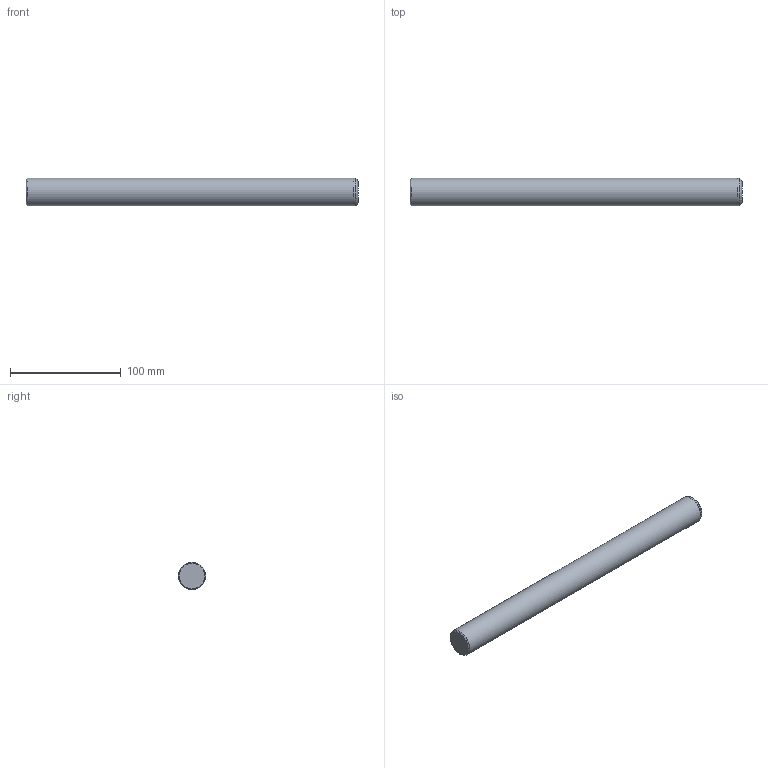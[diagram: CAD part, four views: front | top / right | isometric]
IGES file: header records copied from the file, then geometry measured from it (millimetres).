
Global section: file name: CIS25300.ipt; native system: Autodesk Inventor 2021; preprocessor: unknown; author: SM; date: 20211220.124344; units: millimetre
Bounding box: 300 x 25 x 25 mm (x, y, z)
Volume: 146996.9 mm3; surface area: 24364 mm2
Topology: 1 solids, 1 shells, 6 faces, 11 edges, 7 vertices
Faces by surface type: cone 2, plane 2, revolution 1, cylinder 1
Full cylindrical faces by diameter (mm): 25 x1
